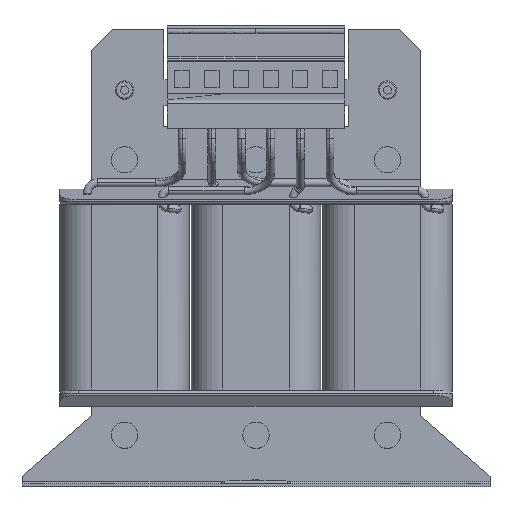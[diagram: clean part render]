
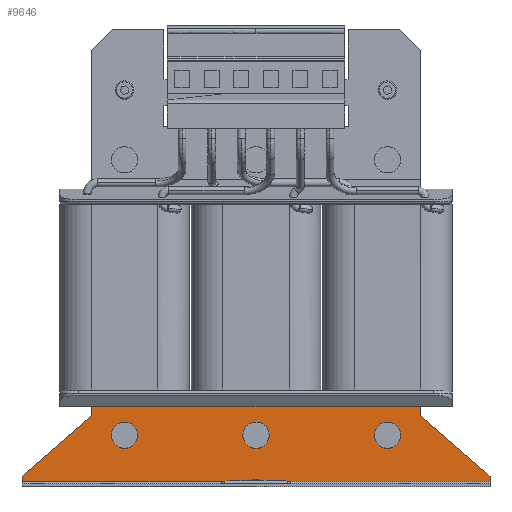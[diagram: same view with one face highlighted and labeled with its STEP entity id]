
A CAD part, top view. The second image highlights one B-rep face of the part: STEP entity #9646.
In plain terms, the highlighted planar face has unit normal (0, 0, 1).
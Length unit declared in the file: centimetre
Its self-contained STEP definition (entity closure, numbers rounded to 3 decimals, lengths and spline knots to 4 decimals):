
#43 = VERTEX_POINT ( 'NONE', #13978 ) ;
#157 = DIRECTION ( 'NONE',  ( 0., -1., 0. ) ) ;
#166 = LINE ( 'NONE', #5430, #11191 ) ;
#254 = VECTOR ( 'NONE', #11139, 100. ) ;
#475 = CARTESIAN_POINT ( 'NONE',  ( 0., 0., 1.295 ) ) ;
#537 = DIRECTION ( 'NONE',  ( 0., 0., 1. ) ) ;
#546 = CIRCLE ( 'NONE', #11527, 0.5 ) ;
#714 = ORIENTED_EDGE ( 'NONE', *, *, #862, .F. ) ;
#728 = CARTESIAN_POINT ( 'NONE',  ( -5., 1.95, 1.295 ) ) ;
#744 = CARTESIAN_POINT ( 'NONE',  ( 8.9, 0.2, 1.295 ) ) ;
#862 = EDGE_CURVE ( 'NONE', #1707, #16914, #1341, .T. ) ;
#1037 = CARTESIAN_POINT ( 'NONE',  ( -6.25, 3.065, 1.295 ) ) ;
#1341 = CIRCLE ( 'NONE', #6096, 0.5 ) ;
#1393 = CARTESIAN_POINT ( 'NONE',  ( -8.9, 0., 1.295 ) ) ;
#1488 = DIRECTION ( 'NONE',  ( -0.755, -0.655, 0. ) ) ;
#1506 = CARTESIAN_POINT ( 'NONE',  ( -8.9, 0.4, 1.295 ) ) ;
#1705 = FACE_BOUND ( 'NONE', #10144, .T. ) ;
#1707 = VERTEX_POINT ( 'NONE', #14072 ) ;
#1836 = CARTESIAN_POINT ( 'NONE',  ( 8.9, 0.2, 1.295 ) ) ;
#1842 = ORIENTED_EDGE ( 'NONE', *, *, #17302, .F. ) ;
#2102 = EDGE_CURVE ( 'NONE', #11605, #15454, #2864, .T. ) ;
#2134 = CARTESIAN_POINT ( 'NONE',  ( 8.9, 0.4, 1.295 ) ) ;
#2392 = DIRECTION ( 'NONE',  ( 0., 1., 0. ) ) ;
#2675 = VERTEX_POINT ( 'NONE', #14410 ) ;
#2711 = CARTESIAN_POINT ( 'NONE',  ( 5.5, 1.95, 1.295 ) ) ;
#2864 = LINE ( 'NONE', #6908, #254 ) ;
#2973 = VERTEX_POINT ( 'NONE', #1506 ) ;
#3281 = FACE_OUTER_BOUND ( 'NONE', #16068, .T. ) ;
#3296 = LINE ( 'NONE', #744, #5919 ) ;
#3363 = FACE_BOUND ( 'NONE', #3569, .T. ) ;
#3389 = ORIENTED_EDGE ( 'NONE', *, *, #16337, .F. ) ;
#3569 = EDGE_LOOP ( 'NONE', ( #10664, #714 ) ) ;
#3630 = CIRCLE ( 'NONE', #14348, 0.5 ) ;
#3846 = AXIS2_PLACEMENT_3D ( 'NONE', #16393, #12239, #13727 ) ;
#3855 = CARTESIAN_POINT ( 'NONE',  ( 8.9, 0.4, 1.295 ) ) ;
#4130 = EDGE_CURVE ( 'NONE', #16914, #1707, #546, .T. ) ;
#4275 = VECTOR ( 'NONE', #2392, 100. ) ;
#4351 = EDGE_CURVE ( 'NONE', #13462, #2675, #3630, .T. ) ;
#4483 = VERTEX_POINT ( 'NONE', #1836 ) ;
#5169 = CARTESIAN_POINT ( 'NONE',  ( 5., 1.95, 1.295 ) ) ;
#5430 = CARTESIAN_POINT ( 'NONE',  ( -8.9, 0.4, 1.295 ) ) ;
#5458 = DIRECTION ( 'NONE',  ( 0., 1., 0. ) ) ;
#5516 = DIRECTION ( 'NONE',  ( 0., 0., 1. ) ) ;
#5668 = ORIENTED_EDGE ( 'NONE', *, *, #13458, .T. ) ;
#5861 = EDGE_CURVE ( 'NONE', #6124, #4483, #3296, .T. ) ;
#5919 = VECTOR ( 'NONE', #16634, 100. ) ;
#6025 = ORIENTED_EDGE ( 'NONE', *, *, #7477, .T. ) ;
#6074 = CARTESIAN_POINT ( 'NONE',  ( -6.25, 2.7, 1.295 ) ) ;
#6096 = AXIS2_PLACEMENT_3D ( 'NONE', #15660, #11943, #14328 ) ;
#6124 = VERTEX_POINT ( 'NONE', #15975 ) ;
#6215 = DIRECTION ( 'NONE',  ( 1., 0., 0. ) ) ;
#6282 = AXIS2_PLACEMENT_3D ( 'NONE', #728, #12633, #16532 ) ;
#6608 = ORIENTED_EDGE ( 'NONE', *, *, #13117, .T. ) ;
#6650 = LINE ( 'NONE', #14685, #9093 ) ;
#6908 = CARTESIAN_POINT ( 'NONE',  ( -6.25, 13.68, 1.295 ) ) ;
#7452 = CIRCLE ( 'NONE', #9695, 0.5 ) ;
#7477 = EDGE_CURVE ( 'NONE', #4483, #13350, #15540, .T. ) ;
#7810 = CARTESIAN_POINT ( 'NONE',  ( -5.5, 1.95, 1.295 ) ) ;
#7905 = EDGE_CURVE ( 'NONE', #43, #11605, #6650, .T. ) ;
#8669 = DIRECTION ( 'NONE',  ( 1., 0., 0. ) ) ;
#8709 = DIRECTION ( 'NONE',  ( -0.755, 0.655, 0. ) ) ;
#8754 = PLANE ( 'NONE',  #16153 ) ;
#9093 = VECTOR ( 'NONE', #16115, 100. ) ;
#9337 = ORIENTED_EDGE ( 'NONE', *, *, #16024, .T. ) ;
#9484 = VECTOR ( 'NONE', #5458, 100. ) ;
#9592 = LINE ( 'NONE', #1393, #12860 ) ;
#9646 = ADVANCED_FACE ( 'NONE', ( #12634, #3363, #1705, #3281 ), #8754, .T. ) ;
#9695 = AXIS2_PLACEMENT_3D ( 'NONE', #10288, #15683, #6215 ) ;
#9932 = ORIENTED_EDGE ( 'NONE', *, *, #16250, .T. ) ;
#9971 = EDGE_LOOP ( 'NONE', ( #10407, #11729 ) ) ;
#10000 = DIRECTION ( 'NONE',  ( 0., 0., 1. ) ) ;
#10135 = CARTESIAN_POINT ( 'NONE',  ( 0., 1.95, 1.295 ) ) ;
#10144 = EDGE_LOOP ( 'NONE', ( #1842, #3389 ) ) ;
#10200 = CARTESIAN_POINT ( 'NONE',  ( 6.25, 2.7, 1.295 ) ) ;
#10288 = CARTESIAN_POINT ( 'NONE',  ( -5., 1.95, 1.295 ) ) ;
#10407 = ORIENTED_EDGE ( 'NONE', *, *, #4351, .F. ) ;
#10430 = VERTEX_POINT ( 'NONE', #7810 ) ;
#10510 = ORIENTED_EDGE ( 'NONE', *, *, #5861, .T. ) ;
#10664 = ORIENTED_EDGE ( 'NONE', *, *, #4130, .F. ) ;
#11121 = CARTESIAN_POINT ( 'NONE',  ( 6.25, 2.7, 1.295 ) ) ;
#11139 = DIRECTION ( 'NONE',  ( 0., -1., 0. ) ) ;
#11191 = VECTOR ( 'NONE', #1488, 100. ) ;
#11224 = VERTEX_POINT ( 'NONE', #11373 ) ;
#11373 = CARTESIAN_POINT ( 'NONE',  ( -4.5, 1.95, 1.295 ) ) ;
#11527 = AXIS2_PLACEMENT_3D ( 'NONE', #10135, #537, #16595 ) ;
#11605 = VERTEX_POINT ( 'NONE', #1037 ) ;
#11641 = CIRCLE ( 'NONE', #6282, 0.5 ) ;
#11729 = ORIENTED_EDGE ( 'NONE', *, *, #13435, .F. ) ;
#11943 = DIRECTION ( 'NONE',  ( 0., 0., 1. ) ) ;
#12164 = DIRECTION ( 'NONE',  ( 1., 0., 0. ) ) ;
#12239 = DIRECTION ( 'NONE',  ( 0., 0., 1. ) ) ;
#12633 = DIRECTION ( 'NONE',  ( 0., 0., 1. ) ) ;
#12634 = FACE_BOUND ( 'NONE', #9971, .T. ) ;
#12860 = VECTOR ( 'NONE', #157, 100. ) ;
#13117 = EDGE_CURVE ( 'NONE', #15486, #43, #14924, .T. ) ;
#13250 = CARTESIAN_POINT ( 'NONE',  ( 6.25, 13.68, 1.295 ) ) ;
#13350 = VERTEX_POINT ( 'NONE', #3855 ) ;
#13435 = EDGE_CURVE ( 'NONE', #2675, #13462, #16267, .T. ) ;
#13458 = EDGE_CURVE ( 'NONE', #2973, #6124, #9592, .T. ) ;
#13462 = VERTEX_POINT ( 'NONE', #2711 ) ;
#13727 = DIRECTION ( 'NONE',  ( 1., 0., 0. ) ) ;
#13978 = CARTESIAN_POINT ( 'NONE',  ( 6.25, 3.065, 1.295 ) ) ;
#14072 = CARTESIAN_POINT ( 'NONE',  ( -0.5, 1.95, 1.295 ) ) ;
#14328 = DIRECTION ( 'NONE',  ( 1., 0., 0. ) ) ;
#14348 = AXIS2_PLACEMENT_3D ( 'NONE', #5169, #5516, #12164 ) ;
#14410 = CARTESIAN_POINT ( 'NONE',  ( 4.5, 1.95, 1.295 ) ) ;
#14516 = ORIENTED_EDGE ( 'NONE', *, *, #2102, .T. ) ;
#14685 = CARTESIAN_POINT ( 'NONE',  ( 0., 3.065, 1.295 ) ) ;
#14924 = LINE ( 'NONE', #13250, #9484 ) ;
#15180 = ORIENTED_EDGE ( 'NONE', *, *, #7905, .T. ) ;
#15422 = LINE ( 'NONE', #10200, #17319 ) ;
#15454 = VERTEX_POINT ( 'NONE', #6074 ) ;
#15486 = VERTEX_POINT ( 'NONE', #11121 ) ;
#15493 = CARTESIAN_POINT ( 'NONE',  ( 0.5, 1.95, 1.295 ) ) ;
#15540 = LINE ( 'NONE', #2134, #4275 ) ;
#15660 = CARTESIAN_POINT ( 'NONE',  ( 0., 1.95, 1.295 ) ) ;
#15683 = DIRECTION ( 'NONE',  ( 0., 0., 1. ) ) ;
#15975 = CARTESIAN_POINT ( 'NONE',  ( -8.9, 0.2, 1.295 ) ) ;
#16024 = EDGE_CURVE ( 'NONE', #15454, #2973, #166, .T. ) ;
#16068 = EDGE_LOOP ( 'NONE', ( #6608, #15180, #14516, #9337, #5668, #10510, #6025, #9932 ) ) ;
#16115 = DIRECTION ( 'NONE',  ( -1., 0., 0. ) ) ;
#16153 = AXIS2_PLACEMENT_3D ( 'NONE', #475, #10000, #8669 ) ;
#16250 = EDGE_CURVE ( 'NONE', #13350, #15486, #15422, .T. ) ;
#16267 = CIRCLE ( 'NONE', #3846, 0.5 ) ;
#16337 = EDGE_CURVE ( 'NONE', #10430, #11224, #7452, .T. ) ;
#16393 = CARTESIAN_POINT ( 'NONE',  ( 5., 1.95, 1.295 ) ) ;
#16532 = DIRECTION ( 'NONE',  ( 1., 0., 0. ) ) ;
#16595 = DIRECTION ( 'NONE',  ( 1., 0., 0. ) ) ;
#16634 = DIRECTION ( 'NONE',  ( 1., 0., 0. ) ) ;
#16914 = VERTEX_POINT ( 'NONE', #15493 ) ;
#17302 = EDGE_CURVE ( 'NONE', #11224, #10430, #11641, .T. ) ;
#17319 = VECTOR ( 'NONE', #8709, 100. ) ;
